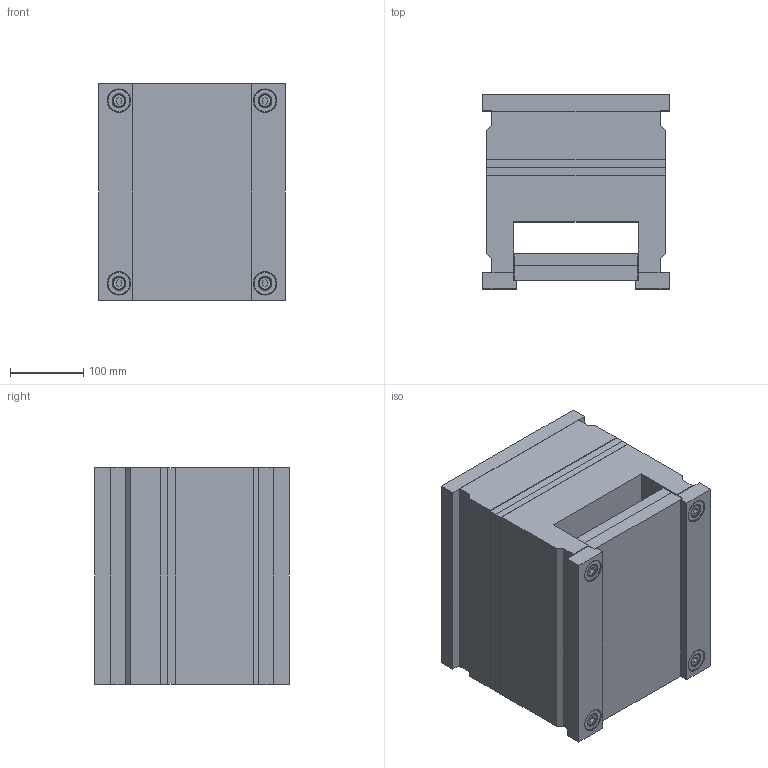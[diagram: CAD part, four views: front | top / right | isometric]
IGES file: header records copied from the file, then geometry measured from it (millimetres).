
Start section: SolidWorks IGES FILE using analytic representation for surfaces
Global section: file name: C:\Documents and Settings\K.P\My Documents\Mechanical\ALMO\CATL_EUR\RECT\2462.IGS; native system: SolidWorks 2001Plus by SolidWorks Corporation; preprocessor: Version 5.3; author: Pavel; date: 020709.092252; units: millimetre
Bounding box: 255 x 266 x 298 mm (x, y, z)
Surface area: 1047442.1 mm2 (no closed solid volume)
Topology: 0 solids, 0 shells, 706 faces, 11944 edges, 11936 vertices
Faces by surface type: revolution 452, bspline 254
